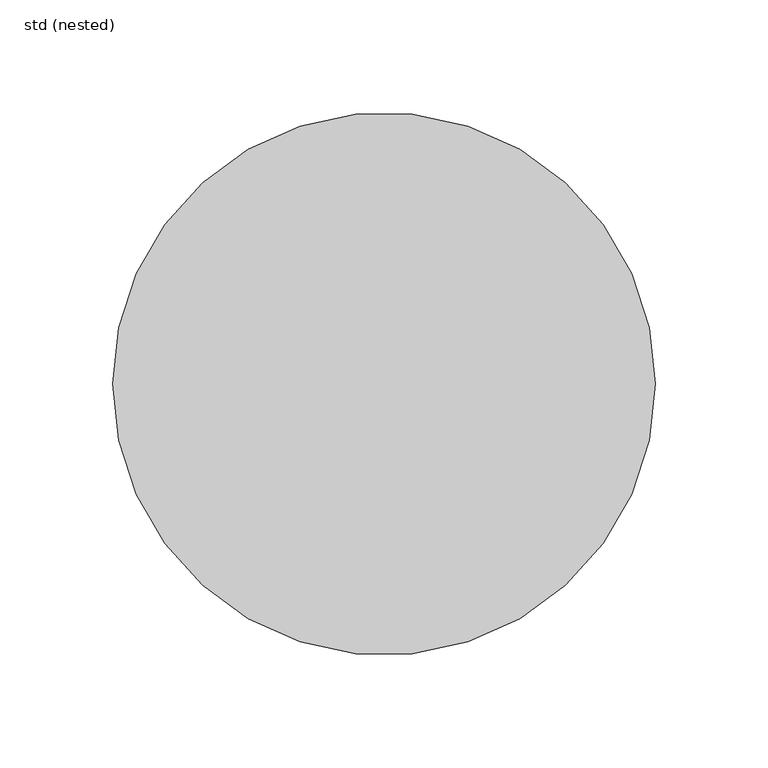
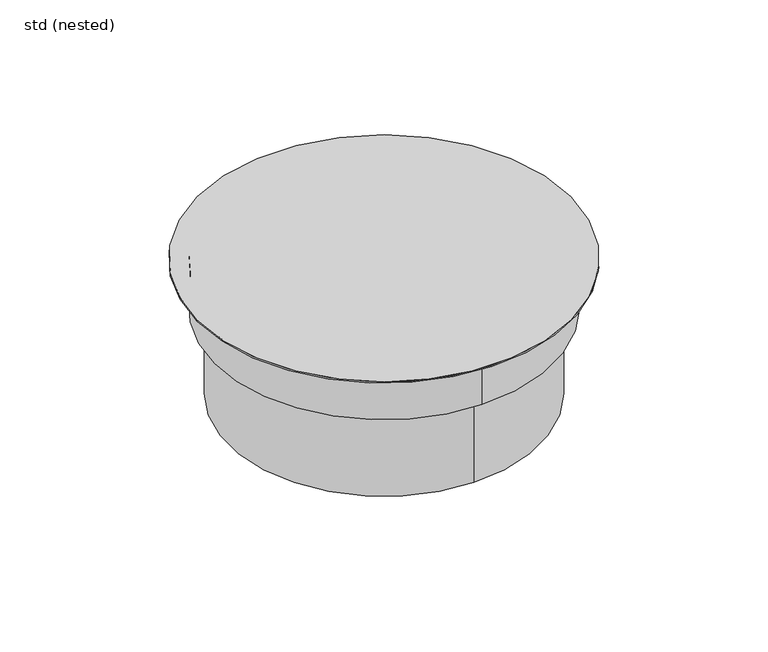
"""IFC4 building model written with IfcOpenShell, lengths in millimetres: sanitary terminal geometry, ZZZ_do not use_PF_ST_UN_raising piece telescopic hygienic gully_ACO : std (nested)."""

from ifc_helpers import new_model, si_unit, point, frame, origin, origin_with_axes, origin_2d, place, context, project, spatial, circle_curve, trimmed, segment, composite_curve, outline, extrude, source, transform, mapped, element, save
from ifc_brep_helpers import plane_surface, cylinder_surface, advanced_brep


def std_nested_98c6a3e6(model_context):
    return source(origin(), model_context, "Body", "SolidModel", [
        extrude(outline(composite_curve([segment(trimmed(circle_curve(origin_2d(), 100.0), [point((0.0, -100.0))], [point((0.0, 100.0))], False, "CARTESIAN"), True, "CONTINUOUS"), segment(trimmed(circle_curve(origin_2d(), 100.0), [point((0.0, 100.0))], [point((0.0, -100.0))], False, "CARTESIAN"), True, "CONTINUOUS")], self_intersect=False)), frame((0.0, 0.0, -92.0), z_axis=(0.0, 0.0, 1.0), x_axis=(1.0, 0.0, 0.0)), (0.0, 0.0, 1.0), 58.5),
        advanced_brep(
        [(0.0, -109.0, -33.5), (0.0, 109.0, -33.5), (-120.0, 0.0, 0.0), (120.0, 0.0, 0.0), (0.0, -109.0, -1.0), (0.0, 109.0, -1.0), (-120.0, 0.0, -1.0), (120.0, 0.0, -1.0)],
        [
            (0, 1, circle_curve(frame((0.0, 0.0, -33.5), z_axis=(0.0, 0.0, -1.0), x_axis=(0.0, 1.0, 0.0)), 109.0)),
            (1, 0, circle_curve(frame((0.0, 0.0, -33.5), z_axis=(0.0, 0.0, -1.0), x_axis=(0.0, 1.0, 0.0)), 109.0)),
            (2, 3, circle_curve(origin_with_axes(), 120.0)),
            (3, 2, circle_curve(origin_with_axes(), 120.0)),
            (0, 4),
            (4, 5, circle_curve(frame((0.0, 0.0, -1.0), z_axis=(0.0, 0.0, -1.0), x_axis=(0.0, 1.0, 0.0)), 109.0)),
            (5, 1),
            (5, 4, circle_curve(frame((0.0, 0.0, -1.0), z_axis=(0.0, 0.0, -1.0), x_axis=(0.0, 1.0, 0.0)), 109.0)),
            (6, 7, circle_curve(frame((0.0, 0.0, -1.0), z_axis=(0.0, 0.0, -1.0), x_axis=(1.0, 0.0, 0.0)), 120.0)),
            (7, 6, circle_curve(frame((0.0, 0.0, -1.0), z_axis=(0.0, 0.0, -1.0), x_axis=(1.0, 0.0, 0.0)), 120.0)),
            (7, 3),
            (2, 6),
        ],
        [
            plane_surface(frame((0.0, 109.0, -33.5), z_axis=(0.0, 0.0, -1.0), x_axis=(1.0, 0.0, 0.0))),
            plane_surface(frame((0.0, 109.0, 0.0), z_axis=(0.0, 0.0, 1.0), x_axis=(-1.0, 0.0, 0.0))),
            cylinder_surface(frame((0.0, 0.0, 0.0), z_axis=(0.0, 0.0, -1.0), x_axis=(0.0, 1.0, 0.0)), 109.0),
            plane_surface(frame((120.0, 0.0, -1.0), z_axis=(0.0, 0.0, -1.0), x_axis=(0.0, -1.0, 0.0))),
            cylinder_surface(frame((0.0, 0.0, -1.0), z_axis=(0.0, 0.0, 1.0), x_axis=(1.0, 0.0, 0.0)), 120.0),
        ],
        [
            (0, [[1, 2]]),
            (1, [[3, 4]]),
            (2, [[-1, 5, 6, 7]]),
            (2, [[-2, -7, 8, -5]]),
            (3, [[9, 10], [-6, -8]]),
            (4, [[-10, 11, -3, 12]]),
            (4, [[-9, -12, -4, -11]]),
        ],
    ),
    ])


if __name__ == "__main__":
    model = new_model("IFC4")
    model_context = context("Model", 3, world=origin())
    ifc_project = project(units=[si_unit("LENGTHUNIT", "METRE", prefix="MILLI")], contexts=[model_context])
    site = spatial("IfcSite", under=ifc_project)
    building = spatial("IfcBuilding", under=site)
    placement = place(None, origin())
    std_nested_shape = std_nested_98c6a3e6(model_context)
    element("IfcSanitaryTerminal", 1, ObjectType="ZZZ_do not use_PF_ST_UN_raising piece telescopic hygienic gully_ACO : std (nested)", at=placement, inside=building, context=model_context, shape_type="MappedRepresentation", body=[
        mapped(std_nested_shape, transform((0.0, 0.0, 0.0), x_axis=(1.0, 0.0, 0.0), y_axis=(0.0, 1.0, 0.0), z_axis=(0.0, 0.0, 1.0))),
    ])
    save(model, "model.ifc")
